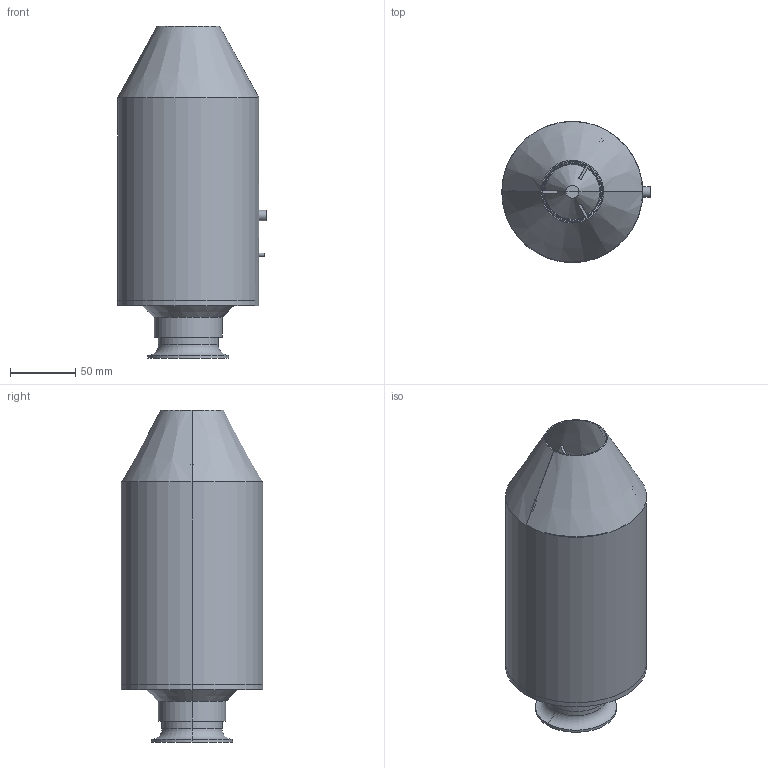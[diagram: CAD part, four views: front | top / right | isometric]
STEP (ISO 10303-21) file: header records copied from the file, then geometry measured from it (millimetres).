
FILE_DESCRIPTION(('BendCAD AP242 PMI export'),'2;1');
FILE_NAME('bendcad.step','',('BendCAD'),('BendCAD'),'BendCAD','BendCAD','');
FILE_SCHEMA(('AP242_MANAGED_MODEL_BASED_3D_ENGINEERING_MIM_LF'));
Products named in the file (1): BENDCAD
Bounding box: 113.6 x 108 x 254 mm (x, y, z)
Volume: 284921.6 mm3; surface area: 370643.8 mm2
Topology: 36 solids, 36 shells, 1944 faces, 18530 edges, 16585 vertices
Faces by surface type: bspline 1368, plane 349, cylinder 129, sphere 60, cone 20, torus 18
Full cylindrical faces by diameter (mm): 1.4 x1, 2.4 x1, 2.6 x1, 4.2 x1, 8 x4
Entity records: 207538 total; most frequent: CARTESIAN_POINT 101301, ORIENTED_EDGE 36876, EDGE_CURVE 18438, VERTEX_POINT 16585, B_SPLINE_CURVE_WITH_KNOTS 15299, DIRECTION 4332, VECTOR 2592, LINE 2592
